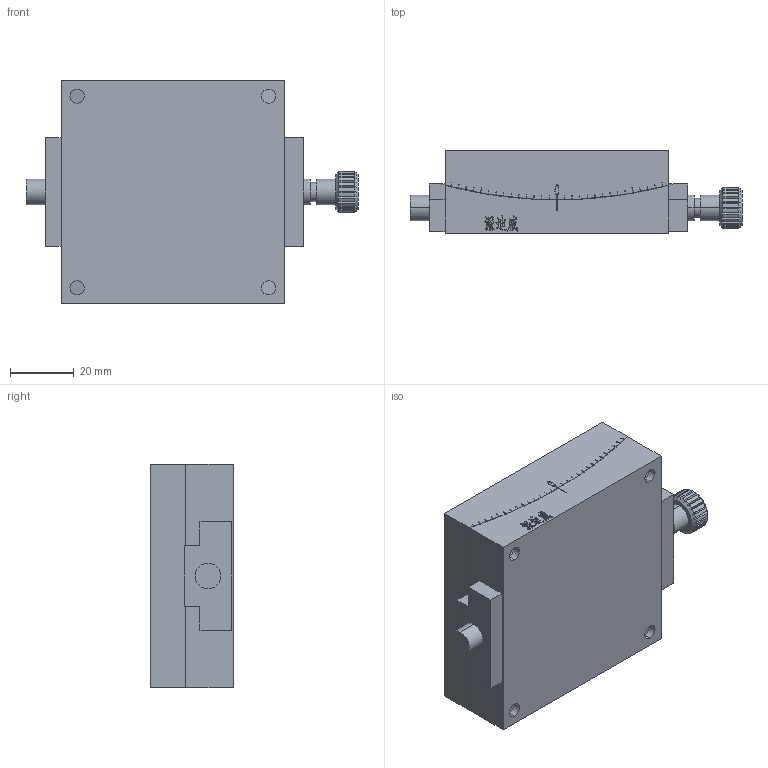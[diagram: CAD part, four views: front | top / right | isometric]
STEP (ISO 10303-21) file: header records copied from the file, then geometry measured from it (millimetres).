
FILE_DESCRIPTION (( 'STEP AP214' ), '1' );
FILE_NAME ('PT-SD3122.STEP', '2022-11-06T07:47:32', ( '' ), ( '' ), 'SwSTEP 2.0', 'SolidWorks 2017', '' );
FILE_SCHEMA (( 'AUTOMOTIVE_DESIGN' ));
Length unit declared in the file: millimetre
Products named in the file (3): PT-SD3122; PT-SD350-3; PT-SD350-4
Assembly tree (2 placements, depth 2):
  PT-SD3122
    PT-SD350-3
    PT-SD350-4
Bounding box: 104 x 26 x 70 mm (x, y, z)
Volume: 130767.7 mm3; surface area: 31662.2 mm2
Topology: 2 solids, 2 shells, 654 faces, 1833 edges, 1199 vertices
Faces by surface type: plane 448, bspline 92, cylinder 84, cone 30
Entity records: 25493 total; most frequent: CARTESIAN_POINT 8993, ORIENTED_EDGE 3614, DIRECTION 2883, EDGE_CURVE 1807, LINE 1289, VECTOR 1289, VERTEX_POINT 1199, AXIS2_PLACEMENT_3D 797
